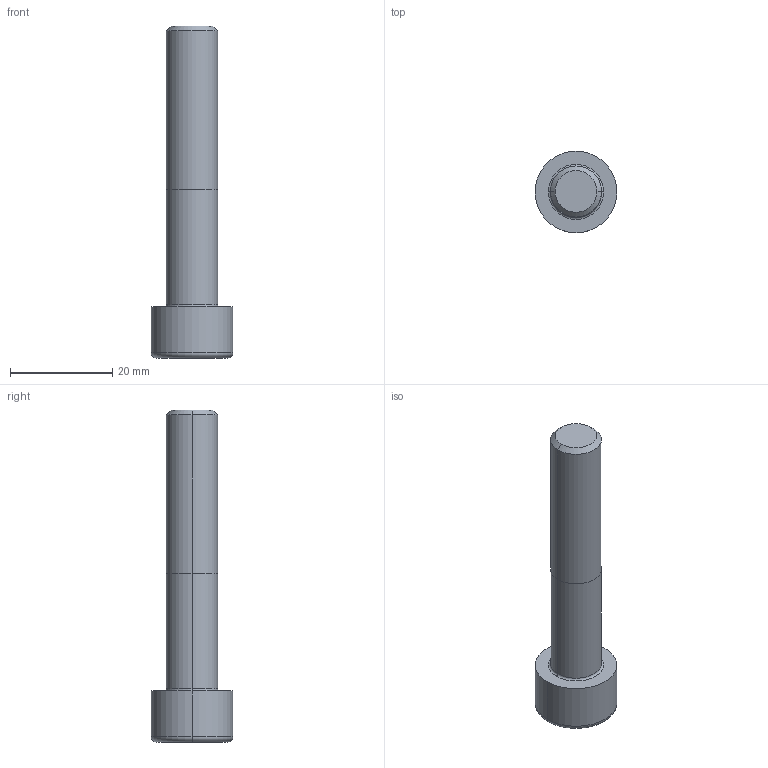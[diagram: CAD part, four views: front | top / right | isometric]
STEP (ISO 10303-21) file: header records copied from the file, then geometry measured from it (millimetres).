
FILE_DESCRIPTION(('STEP AP214'),'1');
FILE_NAME('cctmp_4A35C556-53DF-4B90-97F5-8EE4813D15F9_2025_05_07_12_53_38_0514_23264..stp','2025-05-07T10:53:38',('KiM GmbH'),('CADClick - www.CADClick.com'),'Spatial InterOp 3D',' ','unknown authorization');
FILE_SCHEMA(('AUTOMOTIVE_DESIGN'));
Length unit declared in the file: millimetre
Products named in the file (1): E 1200_10x55
Bounding box: 16 x 16 x 65 mm (x, y, z)
Volume: 6038.5 mm3; surface area: 2727.3 mm2
Topology: 1 solids, 1 shells, 23 faces, 48 edges, 30 vertices
Faces by surface type: plane 11, cylinder 6, torus 4, cone 2
Entity records: 824 total; most frequent: DIRECTION 118, CARTESIAN_POINT 102, ORIENTED_EDGE 96, EDGE_CURVE 48, AXIS2_PLACEMENT_3D 46, VERTEX_POINT 30, EDGE_LOOP 26, LINE 26
